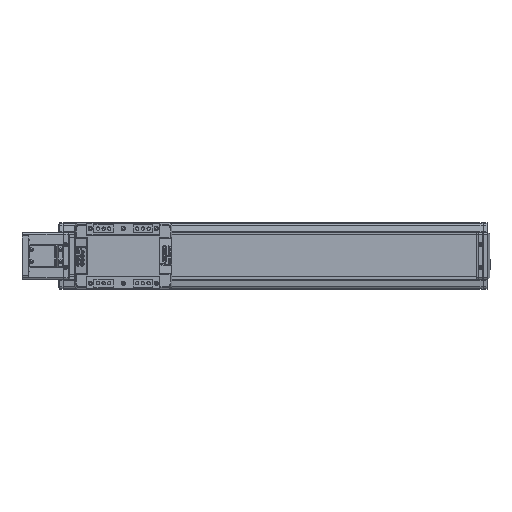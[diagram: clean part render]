
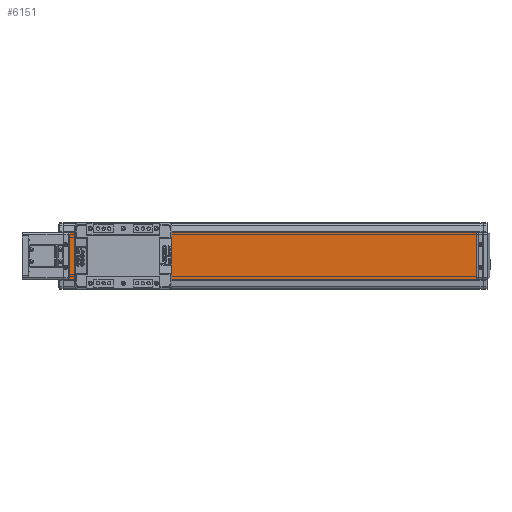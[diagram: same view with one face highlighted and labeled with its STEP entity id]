
A CAD part, top view. The second image highlights one B-rep face of the part: STEP entity #6151.
In plain terms, the highlighted planar face has unit normal (0, 0, 1).
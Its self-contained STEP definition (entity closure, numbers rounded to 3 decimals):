
#6151=ADVANCED_FACE('',(#13077),#13078,.T.);
#13077=FACE_OUTER_BOUND('',#21442,.T.);
#13078=PLANE('',#21443);
#21442=EDGE_LOOP('',(#39404,#39405,#39406,#39407));
#21443=AXIS2_PLACEMENT_3D('',#39408,#39409,#39410);
#39404=ORIENTED_EDGE('',*,*,#50776,.T.);
#39405=ORIENTED_EDGE('',*,*,#50256,.F.);
#39406=ORIENTED_EDGE('',*,*,#52665,.T.);
#39407=ORIENTED_EDGE('',*,*,#53476,.T.);
#39408=CARTESIAN_POINT('',(-580.,0.,20.15));
#39409=DIRECTION('',(0.,0.,1.0));
#39410=DIRECTION('',(0.,-1.0,0.));
#50256=EDGE_CURVE('',#61731,#61726,#61733,.T.);
#50776=EDGE_CURVE('',#62525,#61726,#62528,.T.);
#52665=EDGE_CURVE('',#61731,#65164,#65166,.T.);
#53476=EDGE_CURVE('',#65164,#62525,#66167,.T.);
#61726=VERTEX_POINT('',#77225);
#61731=VERTEX_POINT('',#77232);
#61733=LINE('',#77235,#77236);
#62525=VERTEX_POINT('',#78343);
#62528=LINE('',#78348,#78349);
#65164=VERTEX_POINT('',#82365);
#65166=LINE('',#82368,#82369);
#66167=LINE('',#83830,#83831);
#77225=CARTESIAN_POINT('',(50.,35.,20.15));
#77232=CARTESIAN_POINT('',(-580.,35.,20.15));
#77235=CARTESIAN_POINT('',(-580.,35.,20.15));
#77236=VECTOR('',#91638,10.0);
#78343=CARTESIAN_POINT('',(50.,-35.,20.15));
#78348=CARTESIAN_POINT('',(50.,35.,20.15));
#78349=VECTOR('',#92361,10.0);
#82365=CARTESIAN_POINT('',(-580.,-35.,20.15));
#82368=CARTESIAN_POINT('',(-580.,35.,20.15));
#82369=VECTOR('',#94801,10.0);
#83830=CARTESIAN_POINT('',(-580.,-35.,20.15));
#83831=VECTOR('',#95699,10.0);
#91638=DIRECTION('',(1.0,0.,0.));
#92361=DIRECTION('',(0.,1.0,0.));
#94801=DIRECTION('',(0.,-1.0,0.));
#95699=DIRECTION('',(1.0,0.,0.));
